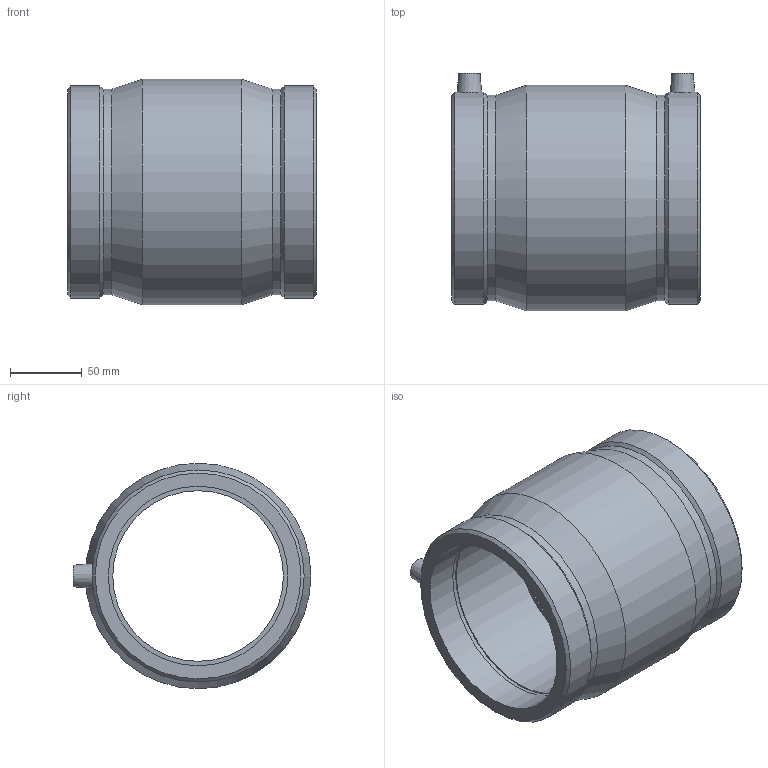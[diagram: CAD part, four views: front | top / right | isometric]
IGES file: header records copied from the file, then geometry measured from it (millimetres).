
Global section: file name: 490104125.ipt; native system: Autodesk Inventor 2015; preprocessor: unknown; author: KIM; date: 20190124.130042; units: millimetre
Bounding box: 173 x 165.5 x 157 mm (x, y, z)
Volume: 1006507.5 mm3; surface area: 166071.7 mm2
Topology: 1 solids, 1 shells, 36 faces, 80 edges, 54 vertices
Faces by surface type: plane 12, revolution 9, cone 8, cylinder 7
Full cylindrical faces by diameter (mm): 4 x2, 143.153 x2, 147.58 x2, 157 x1
